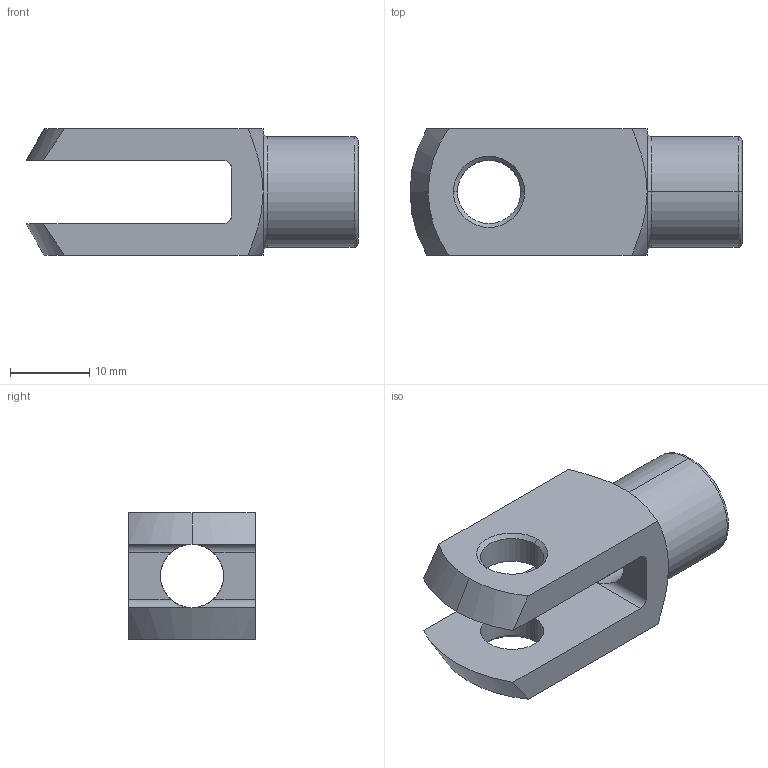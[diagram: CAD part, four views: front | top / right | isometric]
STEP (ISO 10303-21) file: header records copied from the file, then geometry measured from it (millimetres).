
FILE_DESCRIPTION (( 'STEP AP203' ), '1' );
FILE_NAME ('65636.W0082.step', '2014-01-17T13:11:38', ( 'User' ), ( '' ), 'SwSTEP 2.0', 'SolidWorks 2009', '' );
FILE_SCHEMA (( 'CONFIG_CONTROL_DESIGN' ));
Length unit declared in the file: millimetre
Products named in the file (1): 65636.W0082
Bounding box: 42 x 16 x 16 mm (x, y, z)
Volume: 4712.6 mm3; surface area: 3441.6 mm2
Topology: 1 solids, 1 shells, 39 faces, 93 edges, 56 vertices
Faces by surface type: cone 13, cylinder 12, plane 10, torus 4
Entity records: 1288 total; most frequent: CARTESIAN_POINT 293, DIRECTION 201, ORIENTED_EDGE 186, EDGE_CURVE 93, AXIS2_PLACEMENT_3D 84, VERTEX_POINT 56, EDGE_LOOP 45, CIRCLE 44
